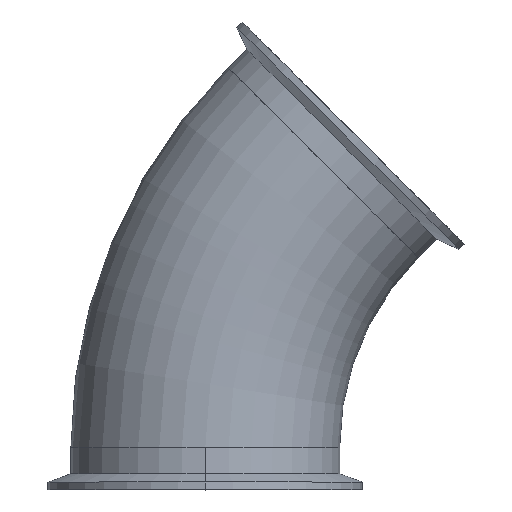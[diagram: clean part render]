
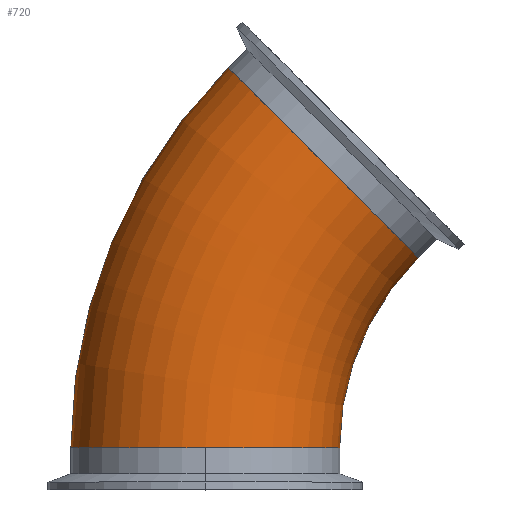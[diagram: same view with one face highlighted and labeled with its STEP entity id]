
A CAD part, top view. The second image highlights one B-rep face of the part: STEP entity #720.
In plain terms, the highlighted toroidal (fillet/blend) face has major radius 152.4 mm and minor radius 50.8 mm.
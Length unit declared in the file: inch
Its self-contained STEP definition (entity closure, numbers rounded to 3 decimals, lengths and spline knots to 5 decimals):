
#89 = DIRECTION ( 'NONE',  ( 0.707, 0.707, 0. ) ) ;
#121 = CARTESIAN_POINT ( 'NONE',  ( -8., 0., 0. ) ) ;
#133 = AXIS2_PLACEMENT_3D ( 'NONE', #286, #827, #377 ) ;
#180 = AXIS2_PLACEMENT_3D ( 'NONE', #549, #867, #241 ) ;
#182 = VERTEX_POINT ( 'NONE', #923 ) ;
#192 = VERTEX_POINT ( 'NONE', #309 ) ;
#241 = DIRECTION ( 'NONE',  ( 1., 0., 0. ) ) ;
#248 = CARTESIAN_POINT ( 'NONE',  ( -4.24264, 4.24264, 0. ) ) ;
#286 = CARTESIAN_POINT ( 'NONE',  ( -6., 0., 0. ) ) ;
#309 = CARTESIAN_POINT ( 'NONE',  ( -2.82843, 2.82843, 0. ) ) ;
#317 = AXIS2_PLACEMENT_3D ( 'NONE', #396, #667, #551 ) ;
#369 = AXIS2_PLACEMENT_3D ( 'NONE', #865, #493, #483 ) ;
#376 = AXIS2_PLACEMENT_3D ( 'NONE', #248, #89, #941 ) ;
#377 = DIRECTION ( 'NONE',  ( 0., 0., 1. ) ) ;
#396 = CARTESIAN_POINT ( 'NONE',  ( 0., 0., 0. ) ) ;
#460 = EDGE_CURVE ( 'NONE', #182, #192, #723, .T. ) ;
#470 = EDGE_CURVE ( 'NONE', #182, #487, #673, .T. ) ;
#483 = DIRECTION ( 'NONE',  ( 1., 0., 0. ) ) ;
#487 = VERTEX_POINT ( 'NONE', #121 ) ;
#493 = DIRECTION ( 'NONE',  ( 0., 0., 1. ) ) ;
#519 = EDGE_CURVE ( 'NONE', #192, #893, #651, .T. ) ;
#522 = CARTESIAN_POINT ( 'NONE',  ( -4., 0., 0. ) ) ;
#549 = CARTESIAN_POINT ( 'NONE',  ( 0., 0., 0. ) ) ;
#551 = DIRECTION ( 'NONE',  ( 1., 0., 0. ) ) ;
#555 = CIRCLE ( 'NONE', #133, 2. ) ;
#598 = TOROIDAL_SURFACE ( 'NONE', #180, 6., 2. ) ;
#599 = FACE_OUTER_BOUND ( 'NONE', #728, .T. ) ;
#651 = CIRCLE ( 'NONE', #317, 4. ) ;
#667 = DIRECTION ( 'NONE',  ( 0., 0., 1. ) ) ;
#673 = CIRCLE ( 'NONE', #369, 8. ) ;
#684 = ORIENTED_EDGE ( 'NONE', *, *, #884, .T. ) ;
#720 = ADVANCED_FACE ( 'NONE', ( #599 ), #598, .T. ) ;
#723 = CIRCLE ( 'NONE', #376, 2. ) ;
#728 = EDGE_LOOP ( 'NONE', ( #959, #821, #684, #965 ) ) ;
#821 = ORIENTED_EDGE ( 'NONE', *, *, #470, .T. ) ;
#827 = DIRECTION ( 'NONE',  ( 0., 1., 0. ) ) ;
#865 = CARTESIAN_POINT ( 'NONE',  ( 0., 0., 0. ) ) ;
#867 = DIRECTION ( 'NONE',  ( 0., 0., 1. ) ) ;
#884 = EDGE_CURVE ( 'NONE', #487, #893, #555, .T. ) ;
#893 = VERTEX_POINT ( 'NONE', #522 ) ;
#923 = CARTESIAN_POINT ( 'NONE',  ( -5.65685, 5.65685, 0. ) ) ;
#941 = DIRECTION ( 'NONE',  ( 0., 0., 1. ) ) ;
#959 = ORIENTED_EDGE ( 'NONE', *, *, #460, .F. ) ;
#965 = ORIENTED_EDGE ( 'NONE', *, *, #519, .F. ) ;
